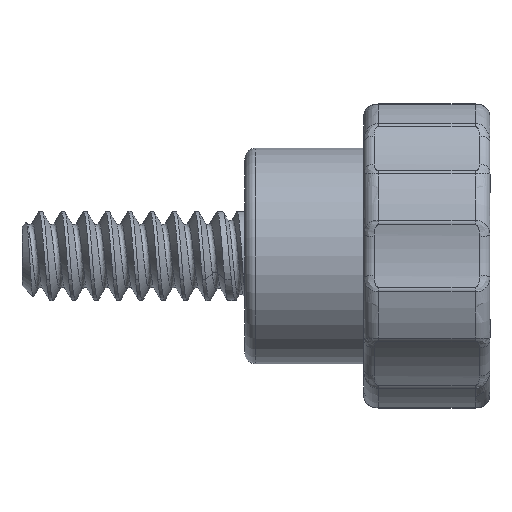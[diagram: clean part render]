
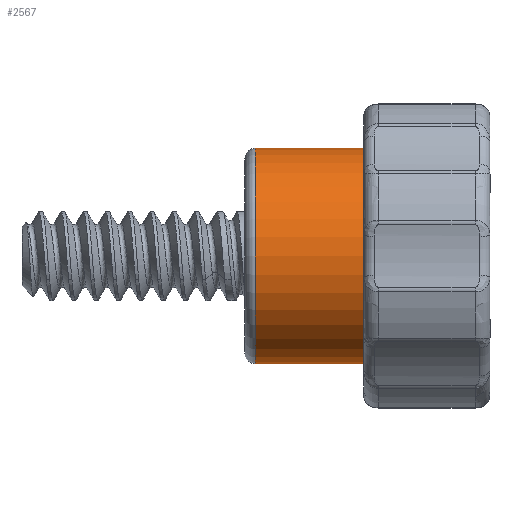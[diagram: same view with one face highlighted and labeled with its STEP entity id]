
A CAD part, left-side view. The second image highlights one B-rep face of the part: STEP entity #2567.
In plain terms, the highlighted cylindrical face has radius 7.25 mm (diameter 14.5 mm), a partial arc.
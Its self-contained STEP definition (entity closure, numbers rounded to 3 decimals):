
#7 = FACE_OUTER_BOUND ( 'NONE', #7431, .T. ) ;
#359 = VECTOR ( 'NONE', #3484, 1000. ) ;
#876 = CARTESIAN_POINT ( 'NONE',  ( 0., 15.8, 7.25 ) ) ;
#987 = VERTEX_POINT ( 'NONE', #11436 ) ;
#998 = VERTEX_POINT ( 'NONE', #4434 ) ;
#1234 = LINE ( 'NONE', #7834, #10411 ) ;
#1286 = CARTESIAN_POINT ( 'NONE',  ( 0., 2., 0. ) ) ;
#1512 = CARTESIAN_POINT ( 'NONE',  ( 0., 2., 7.25 ) ) ;
#1705 = CARTESIAN_POINT ( 'NONE',  ( 0., 0., -7.25 ) ) ;
#2098 = AXIS2_PLACEMENT_3D ( 'NONE', #1286, #7513, #2182 ) ;
#2182 = DIRECTION ( 'NONE',  ( 0., 0., -1. ) ) ;
#2567 = ADVANCED_FACE ( 'NONE', ( #7 ), #10424, .T. ) ;
#3484 = DIRECTION ( 'NONE',  ( 0., -1., 0. ) ) ;
#3629 = EDGE_CURVE ( 'NONE', #3921, #11289, #1234, .T. ) ;
#3671 = ORIENTED_EDGE ( 'NONE', *, *, #9578, .T. ) ;
#3921 = VERTEX_POINT ( 'NONE', #876 ) ;
#4262 = CARTESIAN_POINT ( 'NONE',  ( 0., 0., 0. ) ) ;
#4434 = CARTESIAN_POINT ( 'NONE',  ( 0., 2., -7.25 ) ) ;
#4582 = AXIS2_PLACEMENT_3D ( 'NONE', #4262, #5143, #8632 ) ;
#4631 = ORIENTED_EDGE ( 'NONE', *, *, #3629, .F. ) ;
#5143 = DIRECTION ( 'NONE',  ( 0., -1., 0. ) ) ;
#5189 = DIRECTION ( 'NONE',  ( 0., -1., 0. ) ) ;
#5959 = AXIS2_PLACEMENT_3D ( 'NONE', #10527, #5189, #11409 ) ;
#7431 = EDGE_LOOP ( 'NONE', ( #4631, #9335, #3671, #9452 ) ) ;
#7465 = LINE ( 'NONE', #1705, #359 ) ;
#7513 = DIRECTION ( 'NONE',  ( 0., -1., 0. ) ) ;
#7757 = CIRCLE ( 'NONE', #2098, 7.25 ) ;
#7834 = CARTESIAN_POINT ( 'NONE',  ( 0., 0., 7.25 ) ) ;
#8632 = DIRECTION ( 'NONE',  ( 0., 0., -1. ) ) ;
#8710 = DIRECTION ( 'NONE',  ( 0., -1., 0. ) ) ;
#9335 = ORIENTED_EDGE ( 'NONE', *, *, #9460, .T. ) ;
#9452 = ORIENTED_EDGE ( 'NONE', *, *, #10859, .F. ) ;
#9460 = EDGE_CURVE ( 'NONE', #3921, #987, #10096, .T. ) ;
#9578 = EDGE_CURVE ( 'NONE', #987, #998, #7465, .T. ) ;
#10096 = CIRCLE ( 'NONE', #5959, 7.25 ) ;
#10411 = VECTOR ( 'NONE', #8710, 1000. ) ;
#10424 = CYLINDRICAL_SURFACE ( 'NONE', #4582, 7.25 ) ;
#10527 = CARTESIAN_POINT ( 'NONE',  ( 0., 15.8, 0. ) ) ;
#10859 = EDGE_CURVE ( 'NONE', #11289, #998, #7757, .T. ) ;
#11289 = VERTEX_POINT ( 'NONE', #1512 ) ;
#11409 = DIRECTION ( 'NONE',  ( 0., 0., -1. ) ) ;
#11436 = CARTESIAN_POINT ( 'NONE',  ( 0., 15.8, -7.25 ) ) ;
